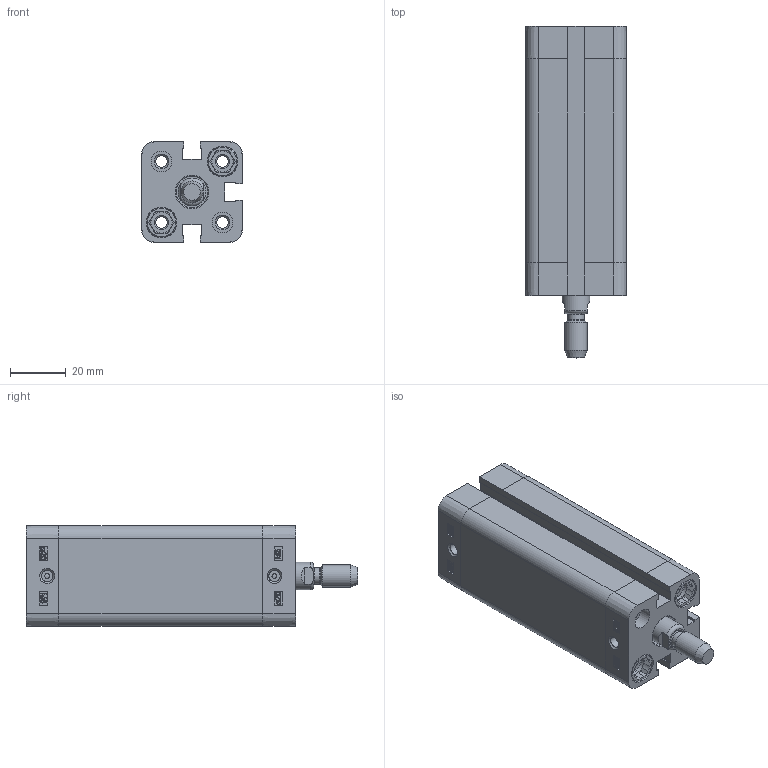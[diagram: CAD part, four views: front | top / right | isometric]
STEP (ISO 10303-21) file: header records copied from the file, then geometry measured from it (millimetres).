
FILE_DESCRIPTION((''),'2;1');
FILE_NAME('T:\Archivio Inventor\- CATALOGHI 2012\SERIE P - NUOVA\PDM\PDM020\PDM020.---.GS.M\STEP\PDM020.060.GS.M.stp','2013-01-30T10:57:25',('Administrator'),(''),'Autodesk Inventor 2012','Autodesk Inventor 2012','');
FILE_SCHEMA(('CONFIG_CONTROL_DESIGN'));
Length unit declared in the file: millimetre
Products named in the file (1): PDM020.060.GS.M
Bounding box: 36.3 x 119.6 x 36.3 mm (x, y, z)
Volume: 68655 mm3; surface area: 39296.1 mm2
Topology: 1 solids, 3 shells, 489 faces, 1225 edges, 798 vertices
Faces by surface type: plane 245, bspline 94, cylinder 88, cone 50, torus 12
Full cylindrical faces by diameter (mm): 1.75 x2, 4.134 x10, 5.8 x1, 7.5 x4, 7.55 x2, 8 x9, 9 x1, 10 x1, 10.8 x4, 11.1 x4, 11.4 x1, 20 x1, 22.3 x1, 22.5 x1
Entity records: 15057 total; most frequent: CARTESIAN_POINT 3740, ORIENTED_EDGE 2232, DIRECTION 1950, EDGE_CURVE 1116, VERTEX_POINT 782, VECTOR 670, LINE 670, EDGE_LOOP 652
